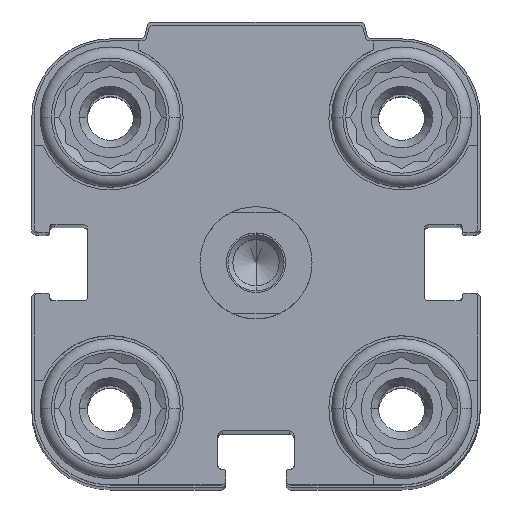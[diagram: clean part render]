
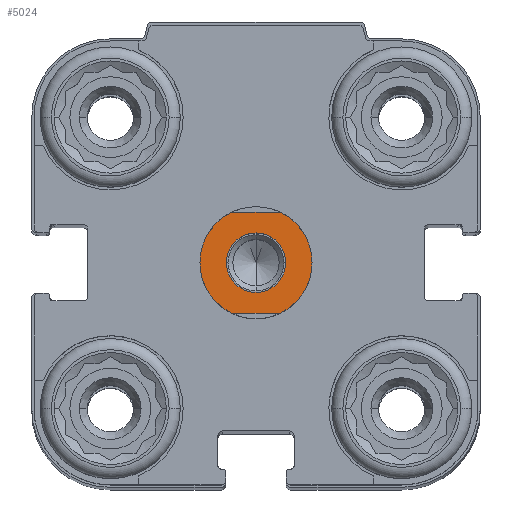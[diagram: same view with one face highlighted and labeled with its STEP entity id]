
A CAD part, top view. The second image highlights one B-rep face of the part: STEP entity #5024.
In plain terms, the highlighted planar face has unit normal (0, 0, 1).
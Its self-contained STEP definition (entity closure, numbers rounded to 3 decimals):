
#353 = AXIS2_PLACEMENT_3D ( 'NONE', #14505, #6995, #1366 ) ;
#935 = AXIS2_PLACEMENT_3D ( 'NONE', #16122, #4374, #5969 ) ;
#936 = VERTEX_POINT ( 'NONE', #11828 ) ;
#1098 = DIRECTION ( 'NONE',  ( -1., 0., 0. ) ) ;
#1256 = CIRCLE ( 'NONE', #353, 5. ) ;
#1366 = DIRECTION ( 'NONE',  ( -1., 0., 0. ) ) ;
#1720 = EDGE_CURVE ( 'NONE', #936, #7871, #6113, .T. ) ;
#1933 = VERTEX_POINT ( 'NONE', #7149 ) ;
#2355 = ORIENTED_EDGE ( 'NONE', *, *, #17045, .T. ) ;
#2386 = DIRECTION ( 'NONE',  ( 0., 0., -1. ) ) ;
#2423 = CARTESIAN_POINT ( 'NONE',  ( 2.179, 4.5, 5.5 ) ) ;
#2631 = FACE_BOUND ( 'NONE', #8605, .T. ) ;
#2921 = CARTESIAN_POINT ( 'NONE',  ( 5., 0., 5.5 ) ) ;
#2964 = CARTESIAN_POINT ( 'NONE',  ( -2.179, 4.5, 5.5 ) ) ;
#3287 = ORIENTED_EDGE ( 'NONE', *, *, #4260, .F. ) ;
#3402 = ORIENTED_EDGE ( 'NONE', *, *, #11781, .F. ) ;
#4186 = LINE ( 'NONE', #8415, #16820 ) ;
#4260 = EDGE_CURVE ( 'NONE', #1933, #4747, #14488, .T. ) ;
#4374 = DIRECTION ( 'NONE',  ( 0., 0., -1. ) ) ;
#4391 = CIRCLE ( 'NONE', #7994, 2.65 ) ;
#4698 = DIRECTION ( 'NONE',  ( -1., 0., 0. ) ) ;
#4747 = VERTEX_POINT ( 'NONE', #14194 ) ;
#5024 = ADVANCED_FACE ( 'NONE', ( #15497, #2631 ), #13629, .F. ) ;
#5064 = VERTEX_POINT ( 'NONE', #2964 ) ;
#5120 = AXIS2_PLACEMENT_3D ( 'NONE', #17754, #10436, #4698 ) ;
#5573 = CARTESIAN_POINT ( 'NONE',  ( 0., 0., 5.5 ) ) ;
#5665 = CARTESIAN_POINT ( 'NONE',  ( 9., -4.5, 5.5 ) ) ;
#5877 = VERTEX_POINT ( 'NONE', #2921 ) ;
#5969 = DIRECTION ( 'NONE',  ( 0., 1., 0. ) ) ;
#6113 = CIRCLE ( 'NONE', #9133, 2.65 ) ;
#6557 = CIRCLE ( 'NONE', #13456, 5. ) ;
#6907 = CARTESIAN_POINT ( 'NONE',  ( 0., 0., 5.5 ) ) ;
#6995 = DIRECTION ( 'NONE',  ( 0., 0., -1. ) ) ;
#7149 = CARTESIAN_POINT ( 'NONE',  ( 2.179, -4.5, 5.5 ) ) ;
#7369 = ORIENTED_EDGE ( 'NONE', *, *, #9297, .F. ) ;
#7642 = AXIS2_PLACEMENT_3D ( 'NONE', #8768, #13282, #17132 ) ;
#7696 = VECTOR ( 'NONE', #13083, 1000. ) ;
#7871 = VERTEX_POINT ( 'NONE', #15105 ) ;
#7925 = EDGE_CURVE ( 'NONE', #15236, #5877, #6557, .T. ) ;
#7994 = AXIS2_PLACEMENT_3D ( 'NONE', #5573, #10000, #17038 ) ;
#8049 = EDGE_CURVE ( 'NONE', #5064, #15236, #4186, .T. ) ;
#8112 = DIRECTION ( 'NONE',  ( 0., 1., 0. ) ) ;
#8415 = CARTESIAN_POINT ( 'NONE',  ( -9., 4.5, 5.5 ) ) ;
#8593 = ORIENTED_EDGE ( 'NONE', *, *, #7925, .F. ) ;
#8605 = EDGE_LOOP ( 'NONE', ( #15568, #2355 ) ) ;
#8768 = CARTESIAN_POINT ( 'NONE',  ( 0., 0., 5.5 ) ) ;
#9133 = AXIS2_PLACEMENT_3D ( 'NONE', #15254, #2386, #8112 ) ;
#9297 = EDGE_CURVE ( 'NONE', #15859, #5064, #1256, .T. ) ;
#10000 = DIRECTION ( 'NONE',  ( 0., 0., -1. ) ) ;
#10436 = DIRECTION ( 'NONE',  ( 0., 0., -1. ) ) ;
#10453 = DIRECTION ( 'NONE',  ( 1., 0., 0. ) ) ;
#11781 = EDGE_CURVE ( 'NONE', #4747, #15859, #13048, .T. ) ;
#11828 = CARTESIAN_POINT ( 'NONE',  ( 0., 2.65, 5.5 ) ) ;
#12207 = ORIENTED_EDGE ( 'NONE', *, *, #15973, .F. ) ;
#13048 = CIRCLE ( 'NONE', #7642, 5. ) ;
#13083 = DIRECTION ( 'NONE',  ( -1., 0., 0. ) ) ;
#13213 = CIRCLE ( 'NONE', #5120, 5. ) ;
#13282 = DIRECTION ( 'NONE',  ( 0., 0., -1. ) ) ;
#13456 = AXIS2_PLACEMENT_3D ( 'NONE', #6907, #18168, #1098 ) ;
#13472 = ORIENTED_EDGE ( 'NONE', *, *, #8049, .F. ) ;
#13629 = PLANE ( 'NONE',  #935 ) ;
#14194 = CARTESIAN_POINT ( 'NONE',  ( -2.179, -4.5, 5.5 ) ) ;
#14488 = LINE ( 'NONE', #5665, #7696 ) ;
#14505 = CARTESIAN_POINT ( 'NONE',  ( 0., 0., 5.5 ) ) ;
#14704 = EDGE_LOOP ( 'NONE', ( #13472, #7369, #3402, #3287, #12207, #8593 ) ) ;
#15105 = CARTESIAN_POINT ( 'NONE',  ( 0., -2.65, 5.5 ) ) ;
#15236 = VERTEX_POINT ( 'NONE', #2423 ) ;
#15254 = CARTESIAN_POINT ( 'NONE',  ( 0., 0., 5.5 ) ) ;
#15497 = FACE_OUTER_BOUND ( 'NONE', #14704, .T. ) ;
#15568 = ORIENTED_EDGE ( 'NONE', *, *, #1720, .T. ) ;
#15778 = CARTESIAN_POINT ( 'NONE',  ( -5., 0., 5.5 ) ) ;
#15859 = VERTEX_POINT ( 'NONE', #15778 ) ;
#15973 = EDGE_CURVE ( 'NONE', #5877, #1933, #13213, .T. ) ;
#16122 = CARTESIAN_POINT ( 'NONE',  ( 0., 0., 5.5 ) ) ;
#16820 = VECTOR ( 'NONE', #10453, 1000. ) ;
#17038 = DIRECTION ( 'NONE',  ( 0., 1., 0. ) ) ;
#17045 = EDGE_CURVE ( 'NONE', #7871, #936, #4391, .T. ) ;
#17132 = DIRECTION ( 'NONE',  ( -1., 0., 0. ) ) ;
#17754 = CARTESIAN_POINT ( 'NONE',  ( 0., 0., 5.5 ) ) ;
#18168 = DIRECTION ( 'NONE',  ( 0., 0., -1. ) ) ;
